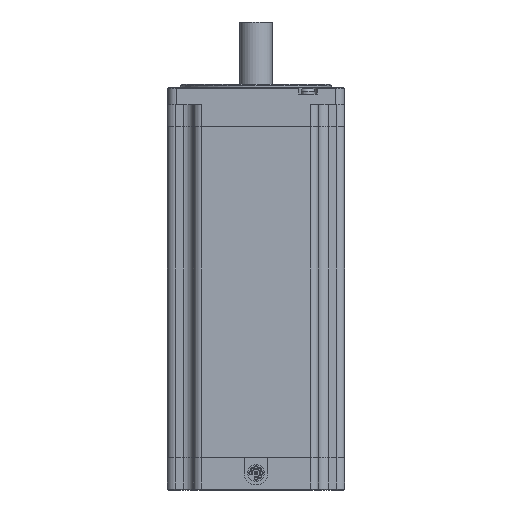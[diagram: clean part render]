
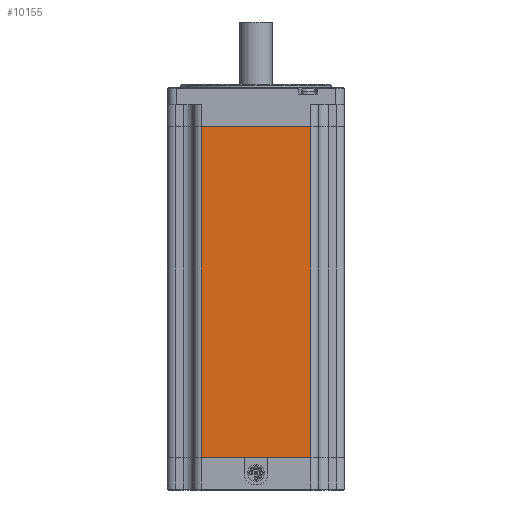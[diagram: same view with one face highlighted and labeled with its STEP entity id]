
A CAD part, front view. The second image highlights one B-rep face of the part: STEP entity #10155.
In plain terms, the highlighted planar face has unit normal (0, -1, 0).
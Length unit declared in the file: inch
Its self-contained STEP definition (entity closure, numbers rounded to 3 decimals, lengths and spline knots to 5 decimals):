
#238 = FACE_OUTER_BOUND ( 'NONE', #2173, .T. ) ;
#662 = PLANE ( 'NONE',  #1563 ) ;
#685 = CARTESIAN_POINT ( 'NONE',  ( 1.04, -1.689, -7.055 ) ) ;
#1026 = VECTOR ( 'NONE', #7675, 39.37008 ) ;
#1563 = AXIS2_PLACEMENT_3D ( 'NONE', #10294, #2145, #11634 ) ;
#1582 = ORIENTED_EDGE ( 'NONE', *, *, #16003, .F. ) ;
#1668 = VERTEX_POINT ( 'NONE', #2122 ) ;
#1829 = CARTESIAN_POINT ( 'NONE',  ( 1.04, -1.689, -7.055 ) ) ;
#2122 = CARTESIAN_POINT ( 'NONE',  ( -1.04, -1.689, -0.75 ) ) ;
#2145 = DIRECTION ( 'NONE',  ( 0., 1., 0. ) ) ;
#2170 = CARTESIAN_POINT ( 'NONE',  ( 1.04, -1.689, -0.75 ) ) ;
#2173 = EDGE_LOOP ( 'NONE', ( #8435, #1582, #9291, #16386 ) ) ;
#3582 = VECTOR ( 'NONE', #15385, 39.37008 ) ;
#4117 = EDGE_CURVE ( 'NONE', #4416, #1668, #9417, .T. ) ;
#4265 = LINE ( 'NONE', #4998, #1026 ) ;
#4369 = LINE ( 'NONE', #685, #11573 ) ;
#4416 = VERTEX_POINT ( 'NONE', #2170 ) ;
#4819 = DIRECTION ( 'NONE',  ( -1., 0., 0. ) ) ;
#4998 = CARTESIAN_POINT ( 'NONE',  ( -1.04, -1.689, -7.055 ) ) ;
#5062 = CARTESIAN_POINT ( 'NONE',  ( 1.04, -1.689, -0.75 ) ) ;
#5773 = VECTOR ( 'NONE', #4819, 39.37008 ) ;
#7193 = LINE ( 'NONE', #1829, #3582 ) ;
#7241 = VERTEX_POINT ( 'NONE', #9099 ) ;
#7675 = DIRECTION ( 'NONE',  ( 0., 0., 1. ) ) ;
#8435 = ORIENTED_EDGE ( 'NONE', *, *, #4117, .T. ) ;
#9099 = CARTESIAN_POINT ( 'NONE',  ( 1.04, -1.689, -7.055 ) ) ;
#9291 = ORIENTED_EDGE ( 'NONE', *, *, #17440, .F. ) ;
#9417 = LINE ( 'NONE', #5062, #5773 ) ;
#10155 = ADVANCED_FACE ( 'NONE', ( #238 ), #662, .F. ) ;
#10294 = CARTESIAN_POINT ( 'NONE',  ( 1.04, -1.689, -7.055 ) ) ;
#11532 = EDGE_CURVE ( 'NONE', #7241, #4416, #7193, .T. ) ;
#11546 = DIRECTION ( 'NONE',  ( -1., 0., 0. ) ) ;
#11562 = CARTESIAN_POINT ( 'NONE',  ( -1.04, -1.689, -7.055 ) ) ;
#11573 = VECTOR ( 'NONE', #11546, 39.37008 ) ;
#11634 = DIRECTION ( 'NONE',  ( -1., 0., 0. ) ) ;
#15385 = DIRECTION ( 'NONE',  ( 0., 0., 1. ) ) ;
#16003 = EDGE_CURVE ( 'NONE', #16869, #1668, #4265, .T. ) ;
#16386 = ORIENTED_EDGE ( 'NONE', *, *, #11532, .T. ) ;
#16869 = VERTEX_POINT ( 'NONE', #11562 ) ;
#17440 = EDGE_CURVE ( 'NONE', #7241, #16869, #4369, .T. ) ;
